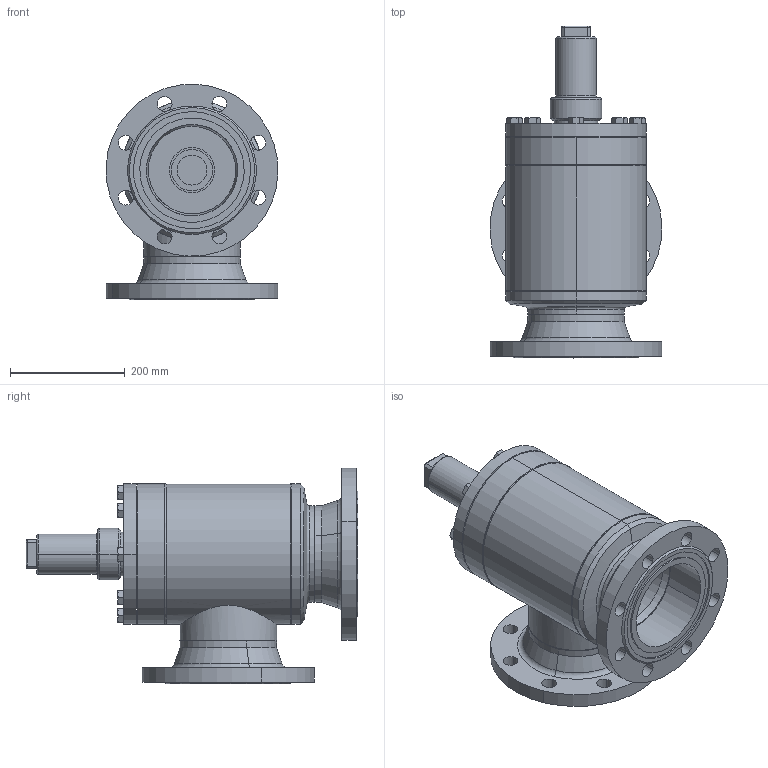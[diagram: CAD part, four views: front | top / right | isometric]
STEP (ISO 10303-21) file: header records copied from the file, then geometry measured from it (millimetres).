
FILE_DESCRIPTION (( 'STEP AP214' ), '1' );
FILE_NAME ('HRAB12420D21-DN150_DIN-FL-N_PS40.STEP', '2006-04-27T12:13:48', ( 'Herr Grams' ), ( 'AWP GmbH' ), 'SwSTEP 2.0', 'SolidWorks 2002296', '' );
FILE_SCHEMA (( 'AUTOMOTIVE_DESIGN' ));
Length unit declared in the file: millimetre
Products named in the file (15): HRAB12420D21-DN150_DIN-FL-N_PS40; Gehäuse-kpl16420-DN150_DIN_PS40_Standard; Boden16300-DN150_Standard; Kopfstück16300-DN150_Standard; Gehäuse16300-DN150_Standard; Flansch-DIN-Nut_PS40_DIN-Flansch-DN150_PS40-Nut; Rohrstutzen-A16300-DN150_R1_Standard; bead-DN150-1_Standard; bead-DN150-3_Standard; bead-DN150-4_Standard; bead-DN150-2_Standard; AVB16300E21_Deck+Schr-DN150_Standard; Deckel16300E21-DN150_Standard; Sechskantschraube-DIN933_M16x 45; Kappe16402_DN125-150_Standard
Assembly tree (22 placements, depth 3):
  HRAB12420D21-DN150_DIN-FL-N_PS40
    Gehäuse-kpl16420-DN150_DIN_PS40_Standard
      Flansch-DIN-Nut_PS40_DIN-Flansch-DN150_PS40-Nut  x2
      Boden16300-DN150_Standard
      Rohrstutzen-A16300-DN150_R1_Standard
      Gehäuse16300-DN150_Standard
      bead-DN150-3_Standard
      bead-DN150-2_Standard
      bead-DN150-4_Standard
      bead-DN150-1_Standard
      Kopfstück16300-DN150_Standard
    Kappe16402_DN125-150_Standard
    AVB16300E21_Deck+Schr-DN150_Standard
      Sechskantschraube-DIN933_M16x 45  x8
      Deckel16300E21-DN150_Standard
Bounding box: 299.71 x 578.5 x 375.86 mm (x, y, z)
Volume: 8685289.7 mm3; surface area: 1342858.1 mm2
Topology: 20 solids, 20 shells, 435 faces, 966 edges, 582 vertices
Faces by surface type: cylinder 145, cone 134, plane 124, torus 16, bspline 16
Entity records: 9815 total; most frequent: CARTESIAN_POINT 3865, DIRECTION 1134, ORIENTED_EDGE 996, EDGE_CURVE 498, AXIS2_PLACEMENT_3D 495, VERTEX_POINT 308, EDGE_LOOP 282, CIRCLE 262
